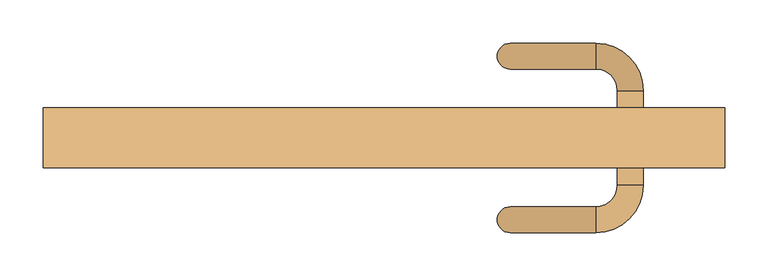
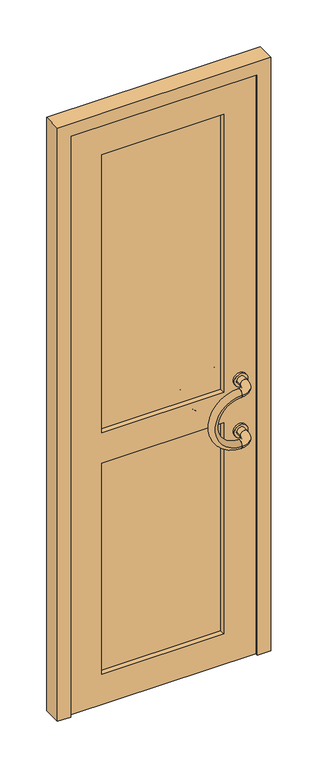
"""IFC4 building model written with IfcOpenShell, lengths in millimetres: door geometry, Simple vitrée : Simple vitrée."""

from ifc_helpers import new_model, si_unit, point, frame, frame_2d, origin, place, context, project, spatial, polyline, circle_curve, ellipse_curve, trimmed, segment, composite_curve, outline, extrude, source, transform, mapped, element, save
from ifc_brep_helpers import plane_surface, revolved_surface, advanced_brep


def door_c9c37e9f(model_context):
    return source(origin(), model_context, "Body", "SolidModel", [
        extrude(outline(composite_curve([segment(trimmed(circle_curve(frame_2d((1100.0, 286.0485792)), 25.0), [point((1100.0, 311.0485792))], [point((1100.0, 261.0485792))], False, "CARTESIAN"), True, "CONTINUOUS"), segment(trimmed(circle_curve(frame_2d((1100.0, 286.0485792)), 25.0), [point((1100.0, 261.0485792))], [point((1100.0, 311.0485792))], False, "CARTESIAN"), True, "CONTINUOUS")], self_intersect=False), holes=[composite_curve([segment(trimmed(circle_curve(frame_2d((1100.0, 286.0485792)), 15.0), [point((1100.0, 301.0485792))], [point((1100.0, 271.0485792))], True, "CARTESIAN"), True, "CONTINUOUS"), segment(trimmed(circle_curve(frame_2d((1100.0, 286.0485792)), 15.0), [point((1100.0, 271.0485792))], [point((1100.0, 301.0485792))], True, "CARTESIAN"), True, "CONTINUOUS")], self_intersect=False)]), frame((0.0, 35.0, 0.0), z_axis=(0.0, 1.0, 0.0), x_axis=(0.0, 0.0, 1.0)), (0.0, 0.0, 1.0), 8.0),
        extrude(outline(composite_curve([segment(trimmed(circle_curve(frame_2d((900.0, 286.0485792)), 25.0), [point((900.0, 311.0485792))], [point((900.0, 261.0485792))], False, "CARTESIAN"), True, "CONTINUOUS"), segment(trimmed(circle_curve(frame_2d((900.0, 286.0485792)), 25.0), [point((900.0, 261.0485792))], [point((900.0, 311.0485792))], False, "CARTESIAN"), True, "CONTINUOUS")], self_intersect=False), holes=[composite_curve([segment(trimmed(circle_curve(frame_2d((900.0, 286.0485792)), 15.0), [point((900.0, 301.0485792))], [point((900.0, 271.0485792))], True, "CARTESIAN"), True, "CONTINUOUS"), segment(trimmed(circle_curve(frame_2d((900.0, 286.0485792)), 15.0), [point((900.0, 271.0485792))], [point((900.0, 301.0485792))], True, "CARTESIAN"), True, "CONTINUOUS")], self_intersect=False)]), frame((0.0, 35.0, 0.0), z_axis=(0.0, 1.0, 0.0), x_axis=(0.0, 0.0, 1.0)), (0.0, 0.0, 1.0), 8.0),
        extrude(outline(composite_curve([segment(trimmed(circle_curve(frame_2d((1100.0, 286.0485792)), 25.0), [point((1100.0, 311.0485792))], [point((1100.0, 261.0485792))], False, "CARTESIAN"), True, "CONTINUOUS"), segment(trimmed(circle_curve(frame_2d((1100.0, 286.0485792)), 25.0), [point((1100.0, 261.0485792))], [point((1100.0, 311.0485792))], False, "CARTESIAN"), True, "CONTINUOUS")], self_intersect=False), holes=[composite_curve([segment(trimmed(circle_curve(frame_2d((1100.0, 286.0485792)), 15.0), [point((1100.0, 301.0485792))], [point((1100.0, 271.0485792))], True, "CARTESIAN"), True, "CONTINUOUS"), segment(trimmed(circle_curve(frame_2d((1100.0, 286.0485792)), 15.0), [point((1100.0, 271.0485792))], [point((1100.0, 301.0485792))], True, "CARTESIAN"), True, "CONTINUOUS")], self_intersect=False)]), frame((0.0, -23.0, 0.0), z_axis=(0.0, 1.0, 0.0), x_axis=(0.0, 0.0, 1.0)), (0.0, 0.0, 1.0), 8.0),
        extrude(outline(composite_curve([segment(trimmed(circle_curve(frame_2d((900.0, 286.0485792)), 25.0), [point((900.0, 311.0485792))], [point((900.0, 261.0485792))], False, "CARTESIAN"), True, "CONTINUOUS"), segment(trimmed(circle_curve(frame_2d((900.0, 286.0485792)), 25.0), [point((900.0, 261.0485792))], [point((900.0, 311.0485792))], False, "CARTESIAN"), True, "CONTINUOUS")], self_intersect=False), holes=[composite_curve([segment(trimmed(circle_curve(frame_2d((900.0, 286.0485792)), 15.0), [point((900.0, 301.0485792))], [point((900.0, 271.0485792))], True, "CARTESIAN"), True, "CONTINUOUS"), segment(trimmed(circle_curve(frame_2d((900.0, 286.0485792)), 15.0), [point((900.0, 271.0485792))], [point((900.0, 301.0485792))], True, "CARTESIAN"), True, "CONTINUOUS")], self_intersect=False)]), frame((0.0, -23.0, 0.0), z_axis=(0.0, 1.0, 0.0), x_axis=(0.0, 0.0, 1.0)), (0.0, 0.0, 1.0), 8.0),
        advanced_brep(
        [(246.0485792, 120.0, 1100.0), (246.0485792, 90.0, 1100.0), (246.0485792, 120.0, 900.0), (246.0485792, 90.0, 900.0)],
        [
            (0, 1, circle_curve(frame((246.0485792, 105.0, 1100.0), z_axis=(1.0, 0.0, 0.0), x_axis=(0.0, -1.0, 0.0)), 15.0)),
            (1, 0, circle_curve(frame((246.0485792, 105.0, 1100.0), z_axis=(1.0, 0.0, 0.0), x_axis=(0.0, -1.0, 0.0)), 15.0)),
            (2, 3, circle_curve(frame((246.0485792, 105.0, 900.0), z_axis=(1.0, 0.0, 0.0), x_axis=(0.0, -1.0, 0.0)), 15.0)),
            (3, 2, circle_curve(frame((246.0485792, 105.0, 900.0), z_axis=(1.0, 0.0, 0.0), x_axis=(0.0, -1.0, 0.0)), 15.0)),
            (2, 0, circle_curve(frame((246.0485792, 120.0, 1000.0), z_axis=(0.0, 1.0, 0.0), x_axis=(0.0, 0.0, 1.0)), 100.0)),
            (1, 3, circle_curve(frame((246.0485792, 90.0, 1000.0), z_axis=(0.0, -1.0, 0.0), x_axis=(0.0, 0.0, 1.0)), 100.0)),
        ],
        [
            plane_surface(frame((246.0485792, 105.0, 1000.0), z_axis=(1.0, 0.0, 0.0), x_axis=(0.0, 0.0, 1.0))),
            plane_surface(frame((246.0485792, 105.0, 1000.0), z_axis=(1.0, 0.0, 0.0), x_axis=(0.0, 0.0, -1.0))),
            revolved_surface(trimmed(ellipse_curve(frame((246.0485792, 105.0, 1100.0), z_axis=(-1.0, 0.0, 0.0), x_axis=(0.0, -1.0, 0.0)), 15.0, 15.0), [point((246.0485792, 120.0, 1100.0))], [point((246.0485792, 90.0, 1100.0))], True, "CARTESIAN"), (246.0485792, 105.0, 1000.0), (0.0, 1.0, 0.0)),
            revolved_surface(trimmed(ellipse_curve(frame((246.0485792, 105.0, 1100.0), z_axis=(-1.0, 0.0, 0.0), x_axis=(0.0, -1.0, 0.0)), 15.0, 15.0), [point((246.0485792, 90.0, 1100.0))], [point((246.0485792, 120.0, 1100.0))], True, "CARTESIAN"), (246.0485792, 105.0, 1000.0), (0.0, 1.0, 0.0)),
        ],
        [
            (0, [[1, 2]]),
            (1, [[3, 4]]),
            (2, [[-3, 5, -2, 6]]),
            (3, [[-4, -6, -1, -5]]),
        ],
    ),
        advanced_brep(
        [(271.0485792, 65.0, 1100.0), (301.0485792, 65.0, 1100.0), (246.0485792, 90.0, 1100.0), (246.0485792, 120.0, 1100.0)],
        [
            (0, 1, circle_curve(frame((286.0485792, 65.0, 1100.0), z_axis=(0.0, -1.0, 0.0), x_axis=(1.0, 0.0, 0.0)), 15.0)),
            (1, 0, circle_curve(frame((286.0485792, 65.0, 1100.0), z_axis=(0.0, -1.0, 0.0), x_axis=(1.0, 0.0, 0.0)), 15.0)),
            (2, 3, circle_curve(frame((246.0485792, 105.0, 1100.0), z_axis=(-1.0, 0.0, 0.0), x_axis=(0.0, 1.0, 0.0)), 15.0)),
            (3, 2, circle_curve(frame((246.0485792, 105.0, 1100.0), z_axis=(-1.0, 0.0, 0.0), x_axis=(0.0, 1.0, 0.0)), 15.0)),
            (2, 0, circle_curve(frame((246.0485792, 65.0, 1100.0), z_axis=(0.0, 0.0, -1.0), x_axis=(1.0, 0.0, 0.0)), 25.0)),
            (1, 3, circle_curve(frame((246.0485792, 65.0, 1100.0), z_axis=(0.0, 0.0, 1.0), x_axis=(1.0, 0.0, 0.0)), 55.0)),
        ],
        [
            plane_surface(frame((246.0485792, 65.0, 1100.0), z_axis=(0.0, -1.0, 0.0), x_axis=(1.0, 0.0, 0.0))),
            plane_surface(frame((246.0485792, 65.0, 1100.0), z_axis=(-1.0, 0.0, 0.0), x_axis=(0.0, 1.0, 0.0))),
            revolved_surface(trimmed(ellipse_curve(frame((286.0485792, 65.0, 1100.0), z_axis=(0.0, 1.0, 0.0), x_axis=(1.0, 0.0, 0.0)), 15.0, 15.0), [point((271.0485792, 65.0, 1100.0))], [point((301.0485792, 65.0, 1100.0))], True, "CARTESIAN"), (246.0485792, 65.0, 1100.0), (0.0, 0.0, -1.0)),
            revolved_surface(trimmed(ellipse_curve(frame((286.0485792, 65.0, 1100.0), z_axis=(0.0, 1.0, 0.0), x_axis=(1.0, 0.0, 0.0)), 15.0, 15.0), [point((301.0485792, 65.0, 1100.0))], [point((271.0485792, 65.0, 1100.0))], True, "CARTESIAN"), (246.0485792, 65.0, 1100.0), (0.0, 0.0, -1.0)),
        ],
        [
            (0, [[1, 2]]),
            (1, [[3, 4]]),
            (2, [[-3, 5, -2, 6]]),
            (3, [[-4, -6, -1, -5]]),
        ],
    ),
        advanced_brep(
        [(271.0485792, 65.0, 900.0), (301.0485792, 65.0, 900.0), (246.0485792, 90.0, 900.0), (246.0485792, 120.0, 900.0)],
        [
            (0, 1, circle_curve(frame((286.0485792, 65.0, 900.0), z_axis=(0.0, -1.0, 0.0), x_axis=(1.0, 0.0, 0.0)), 15.0)),
            (1, 0, circle_curve(frame((286.0485792, 65.0, 900.0), z_axis=(0.0, -1.0, 0.0), x_axis=(1.0, 0.0, 0.0)), 15.0)),
            (2, 3, circle_curve(frame((246.0485792, 105.0, 900.0), z_axis=(-1.0, 0.0, 0.0), x_axis=(0.0, 1.0, 0.0)), 15.0)),
            (3, 2, circle_curve(frame((246.0485792, 105.0, 900.0), z_axis=(-1.0, 0.0, 0.0), x_axis=(0.0, 1.0, 0.0)), 15.0)),
            (2, 0, circle_curve(frame((246.0485792, 65.0, 900.0), z_axis=(0.0, 0.0, -1.0), x_axis=(1.0, 0.0, 0.0)), 25.0)),
            (1, 3, circle_curve(frame((246.0485792, 65.0, 900.0), z_axis=(0.0, 0.0, 1.0), x_axis=(1.0, 0.0, 0.0)), 55.0)),
        ],
        [
            plane_surface(frame((246.0485792, 65.0, 1100.0), z_axis=(0.0, -1.0, 0.0), x_axis=(1.0, 0.0, 0.0))),
            plane_surface(frame((246.0485792, 65.0, 1100.0), z_axis=(-1.0, 0.0, 0.0), x_axis=(0.0, 1.0, 0.0))),
            revolved_surface(trimmed(ellipse_curve(frame((286.0485792, 65.0, 900.0), z_axis=(0.0, 1.0, 0.0), x_axis=(1.0, 0.0, 0.0)), 15.0, 15.0), [point((271.0485792, 65.0, 900.0))], [point((301.0485792, 65.0, 900.0))], True, "CARTESIAN"), (246.0485792, 65.0, 1100.0), (0.0, 0.0, -1.0)),
            revolved_surface(trimmed(ellipse_curve(frame((286.0485792, 65.0, 900.0), z_axis=(0.0, 1.0, 0.0), x_axis=(1.0, 0.0, 0.0)), 15.0, 15.0), [point((301.0485792, 65.0, 900.0))], [point((271.0485792, 65.0, 900.0))], True, "CARTESIAN"), (246.0485792, 65.0, 1100.0), (0.0, 0.0, -1.0)),
        ],
        [
            (0, [[1, 2]]),
            (1, [[3, 4]]),
            (2, [[-3, 5, -2, 6]]),
            (3, [[-4, -6, -1, -5]]),
        ],
    ),
        extrude(outline(composite_curve([segment(trimmed(circle_curve(frame_2d((1100.0, 286.0485792)), 15.0), [point((1100.0, 301.0485792))], [point((1100.0, 271.0485792))], False, "CARTESIAN"), True, "CONTINUOUS"), segment(trimmed(circle_curve(frame_2d((1100.0, 286.0485792)), 15.0), [point((1100.0, 271.0485792))], [point((1100.0, 301.0485792))], False, "CARTESIAN"), True, "CONTINUOUS")], self_intersect=False)), frame((0.0, 35.0, 0.0), z_axis=(0.0, 1.0, 0.0), x_axis=(0.0, 0.0, 1.0)), (0.0, 0.0, 1.0), 30.0),
        extrude(outline(composite_curve([segment(trimmed(circle_curve(frame_2d((900.0, 286.0485792)), 15.0), [point((900.0, 301.0485792))], [point((900.0, 271.0485792))], False, "CARTESIAN"), True, "CONTINUOUS"), segment(trimmed(circle_curve(frame_2d((900.0, 286.0485792)), 15.0), [point((900.0, 271.0485792))], [point((900.0, 301.0485792))], False, "CARTESIAN"), True, "CONTINUOUS")], self_intersect=False)), frame((0.0, 35.0, 0.0), z_axis=(0.0, 1.0, 0.0), x_axis=(0.0, 0.0, 1.0)), (0.0, 0.0, 1.0), 30.0),
        advanced_brep(
        [(246.0485792, -70.0, 1100.0), (246.0485792, -100.0, 1100.0), (246.0485792, -70.0, 900.0), (246.0485792, -100.0, 900.0)],
        [
            (0, 1, circle_curve(frame((246.0485792, -85.0, 1100.0), z_axis=(1.0, 0.0, 0.0), x_axis=(0.0, -1.0, 0.0)), 15.0)),
            (1, 0, circle_curve(frame((246.0485792, -85.0, 1100.0), z_axis=(1.0, 0.0, 0.0), x_axis=(0.0, -1.0, 0.0)), 15.0)),
            (2, 3, circle_curve(frame((246.0485792, -85.0, 900.0), z_axis=(1.0, 0.0, 0.0), x_axis=(0.0, -1.0, 0.0)), 15.0)),
            (3, 2, circle_curve(frame((246.0485792, -85.0, 900.0), z_axis=(1.0, 0.0, 0.0), x_axis=(0.0, -1.0, 0.0)), 15.0)),
            (2, 0, circle_curve(frame((246.0485792, -70.0, 1000.0), z_axis=(0.0, 1.0, 0.0), x_axis=(0.0, 0.0, 1.0)), 100.0)),
            (1, 3, circle_curve(frame((246.0485792, -100.0, 1000.0), z_axis=(0.0, -1.0, 0.0), x_axis=(0.0, 0.0, 1.0)), 100.0)),
        ],
        [
            plane_surface(frame((246.0485792, -100.0, 1000.0), z_axis=(1.0, 0.0, 0.0), x_axis=(0.0, 0.0, 1.0))),
            plane_surface(frame((246.0485792, -100.0, 1000.0), z_axis=(1.0, 0.0, 0.0), x_axis=(0.0, 0.0, -1.0))),
            revolved_surface(trimmed(ellipse_curve(frame((246.0485792, -85.0, 1100.0), z_axis=(-1.0, 0.0, 0.0), x_axis=(0.0, -1.0, 0.0)), 15.0, 15.0), [point((246.0485792, -70.0, 1100.0))], [point((246.0485792, -100.0, 1100.0))], True, "CARTESIAN"), (246.0485792, -100.0, 1000.0), (0.0, 1.0, 0.0)),
            revolved_surface(trimmed(ellipse_curve(frame((246.0485792, -85.0, 1100.0), z_axis=(-1.0, 0.0, 0.0), x_axis=(0.0, -1.0, 0.0)), 15.0, 15.0), [point((246.0485792, -100.0, 1100.0))], [point((246.0485792, -70.0, 1100.0))], True, "CARTESIAN"), (246.0485792, -100.0, 1000.0), (0.0, 1.0, 0.0)),
        ],
        [
            (0, [[1, 2]]),
            (1, [[3, 4]]),
            (2, [[-3, 5, -2, 6]]),
            (3, [[-4, -6, -1, -5]]),
        ],
    ),
        advanced_brep(
        [(301.0485792, -45.0, 1100.0), (271.0485792, -45.0, 1100.0), (246.0485792, -100.0, 1100.0), (246.0485792, -70.0, 1100.0)],
        [
            (0, 1, circle_curve(frame((286.0485792, -45.0, 1100.0), z_axis=(0.0, 1.0, 0.0), x_axis=(-1.0, 0.0, 0.0)), 15.0)),
            (1, 0, circle_curve(frame((286.0485792, -45.0, 1100.0), z_axis=(0.0, 1.0, 0.0), x_axis=(-1.0, 0.0, 0.0)), 15.0)),
            (2, 3, circle_curve(frame((246.0485792, -85.0, 1100.0), z_axis=(-1.0, 0.0, 0.0), x_axis=(0.0, 1.0, 0.0)), 15.0)),
            (3, 2, circle_curve(frame((246.0485792, -85.0, 1100.0), z_axis=(-1.0, 0.0, 0.0), x_axis=(0.0, 1.0, 0.0)), 15.0)),
            (2, 0, circle_curve(frame((246.0485792, -45.0, 1100.0), z_axis=(0.0, 0.0, 1.0), x_axis=(1.0, 0.0, 0.0)), 55.0)),
            (1, 3, circle_curve(frame((246.0485792, -45.0, 1100.0), z_axis=(0.0, 0.0, -1.0), x_axis=(1.0, 0.0, 0.0)), 25.0)),
        ],
        [
            plane_surface(frame((246.0485792, -45.0, 1100.0), z_axis=(0.0, 1.0, 0.0), x_axis=(1.0, 0.0, 0.0))),
            plane_surface(frame((246.0485792, -45.0, 1100.0), z_axis=(-1.0, 0.0, 0.0), x_axis=(0.0, -1.0, 0.0))),
            revolved_surface(trimmed(ellipse_curve(frame((286.0485792, -45.0, 1100.0), z_axis=(0.0, -1.0, 0.0), x_axis=(-1.0, 0.0, 0.0)), 15.0, 15.0), [point((301.0485792, -45.0, 1100.0))], [point((271.0485792, -45.0, 1100.0))], True, "CARTESIAN"), (246.0485792, -45.0, 1100.0), (0.0, 0.0, 1.0)),
            revolved_surface(trimmed(ellipse_curve(frame((286.0485792, -45.0, 1100.0), z_axis=(0.0, -1.0, 0.0), x_axis=(-1.0, 0.0, 0.0)), 15.0, 15.0), [point((271.0485792, -45.0, 1100.0))], [point((301.0485792, -45.0, 1100.0))], True, "CARTESIAN"), (246.0485792, -45.0, 1100.0), (0.0, 0.0, 1.0)),
        ],
        [
            (0, [[1, 2]]),
            (1, [[3, 4]]),
            (2, [[-3, 5, -2, 6]]),
            (3, [[-4, -6, -1, -5]]),
        ],
    ),
        advanced_brep(
        [(301.0485792, -45.0, 900.0), (271.0485792, -45.0, 900.0), (246.0485792, -100.0, 900.0), (246.0485792, -70.0, 900.0)],
        [
            (0, 1, circle_curve(frame((286.0485792, -45.0, 900.0), z_axis=(0.0, 1.0, 0.0), x_axis=(-1.0, 0.0, 0.0)), 15.0)),
            (1, 0, circle_curve(frame((286.0485792, -45.0, 900.0), z_axis=(0.0, 1.0, 0.0), x_axis=(-1.0, 0.0, 0.0)), 15.0)),
            (2, 3, circle_curve(frame((246.0485792, -85.0, 900.0), z_axis=(-1.0, 0.0, 0.0), x_axis=(0.0, 1.0, 0.0)), 15.0)),
            (3, 2, circle_curve(frame((246.0485792, -85.0, 900.0), z_axis=(-1.0, 0.0, 0.0), x_axis=(0.0, 1.0, 0.0)), 15.0)),
            (2, 0, circle_curve(frame((246.0485792, -45.0, 900.0), z_axis=(0.0, 0.0, 1.0), x_axis=(1.0, 0.0, 0.0)), 55.0)),
            (1, 3, circle_curve(frame((246.0485792, -45.0, 900.0), z_axis=(0.0, 0.0, -1.0), x_axis=(1.0, 0.0, 0.0)), 25.0)),
        ],
        [
            plane_surface(frame((246.0485792, -45.0, 1100.0), z_axis=(0.0, 1.0, 0.0), x_axis=(1.0, 0.0, 0.0))),
            plane_surface(frame((246.0485792, -45.0, 1100.0), z_axis=(-1.0, 0.0, 0.0), x_axis=(0.0, -1.0, 0.0))),
            revolved_surface(trimmed(ellipse_curve(frame((286.0485792, -45.0, 900.0), z_axis=(0.0, -1.0, 0.0), x_axis=(-1.0, 0.0, 0.0)), 15.0, 15.0), [point((301.0485792, -45.0, 900.0))], [point((271.0485792, -45.0, 900.0))], True, "CARTESIAN"), (246.0485792, -45.0, 1100.0), (0.0, 0.0, 1.0)),
            revolved_surface(trimmed(ellipse_curve(frame((286.0485792, -45.0, 900.0), z_axis=(0.0, -1.0, 0.0), x_axis=(-1.0, 0.0, 0.0)), 15.0, 15.0), [point((271.0485792, -45.0, 900.0))], [point((301.0485792, -45.0, 900.0))], True, "CARTESIAN"), (246.0485792, -45.0, 1100.0), (0.0, 0.0, 1.0)),
        ],
        [
            (0, [[1, 2]]),
            (1, [[3, 4]]),
            (2, [[-3, 5, -2, 6]]),
            (3, [[-4, -6, -1, -5]]),
        ],
    ),
        extrude(outline(composite_curve([segment(trimmed(circle_curve(frame_2d((1100.0, 286.0485792)), 15.0), [point((1100.0, 301.0485792))], [point((1100.0, 271.0485792))], False, "CARTESIAN"), True, "CONTINUOUS"), segment(trimmed(circle_curve(frame_2d((1100.0, 286.0485792)), 15.0), [point((1100.0, 271.0485792))], [point((1100.0, 301.0485792))], False, "CARTESIAN"), True, "CONTINUOUS")], self_intersect=False)), frame((0.0, -45.0, 0.0), z_axis=(0.0, 1.0, 0.0), x_axis=(0.0, 0.0, 1.0)), (0.0, 0.0, 1.0), 30.0),
        extrude(outline(composite_curve([segment(trimmed(circle_curve(frame_2d((900.0, 286.0485792)), 15.0), [point((900.0, 301.0485792))], [point((900.0, 271.0485792))], False, "CARTESIAN"), True, "CONTINUOUS"), segment(trimmed(circle_curve(frame_2d((900.0, 286.0485792)), 15.0), [point((900.0, 271.0485792))], [point((900.0, 301.0485792))], False, "CARTESIAN"), True, "CONTINUOUS")], self_intersect=False)), frame((0.0, -45.0, 0.0), z_axis=(0.0, 1.0, 0.0), x_axis=(0.0, 0.0, 1.0)), (0.0, 0.0, 1.0), 30.0),
        extrude(outline(polyline([(0.0, -396.0485792), (0.0, -346.0485792), (2278.3333333, -346.0485792), (2278.3333333, 346.0485792), (0.0, 346.0485792), (0.0, 396.0485792), (2328.3333333, 396.0485792), (2328.3333333, -396.0485792), (0.0, -396.0485792)])), frame((0.0, -25.0, 0.0), z_axis=(0.0, 1.0, 0.0), x_axis=(0.0, 0.0, 1.0)), (0.0, 0.0, 1.0), 70.0),
        extrude(outline(polyline([(226.0485792, 5.0), (-226.0485792, 5.0), (-226.0485792, 15.0), (226.0485792, 15.0), (226.0485792, 5.0)])), frame((0.0, 0.0, 120.0), z_axis=(0.0, 0.0, 1.0), x_axis=(1.0, 0.0, 0.0)), (0.0, 0.0, 1.0), 2038.3333333),
        extrude(outline(polyline([(2278.3333333, 346.0485792), (2278.3333333, -346.0485792), (0.0, -346.0485792), (0.0, 346.0485792), (2278.3333333, 346.0485792)]), holes=[polyline([(2158.3333333, 226.0485792), (1067.5687603, 226.0485792), (1067.5687603, -226.0485792), (2158.3333333, -226.0485792), (2158.3333333, 226.0485792)]), polyline([(947.5687603, -226.0485792), (947.5687603, 226.0485792), (120.0, 226.0485792), (120.0, -226.0485792), (947.5687603, -226.0485792)])]), frame((0.0, -15.0, 0.0), z_axis=(0.0, 1.0, 0.0), x_axis=(0.0, 0.0, 1.0)), (0.0, 0.0, 1.0), 50.0),
    ])


if __name__ == "__main__":
    model = new_model("IFC4")
    model_context = context("Model", 3, world=origin())
    ifc_project = project(units=[si_unit("LENGTHUNIT", "METRE", prefix="MILLI")], contexts=[model_context])
    site = spatial("IfcSite", under=ifc_project)
    building = spatial("IfcBuilding", under=site)
    placement = place(None, origin())
    door_shape = door_c9c37e9f(model_context)
    element("IfcDoor", 1, ObjectType="Simple vitrée : Simple vitrée", at=placement, inside=building, context=model_context, shape_type="MappedRepresentation", body=[
        mapped(door_shape, transform((0.0, 0.0, 0.0), x_axis=(1.0, 0.0, 0.0), y_axis=(0.0, 1.0, 0.0), z_axis=(0.0, 0.0, 1.0))),
    ])
    save(model, "model.ifc")
